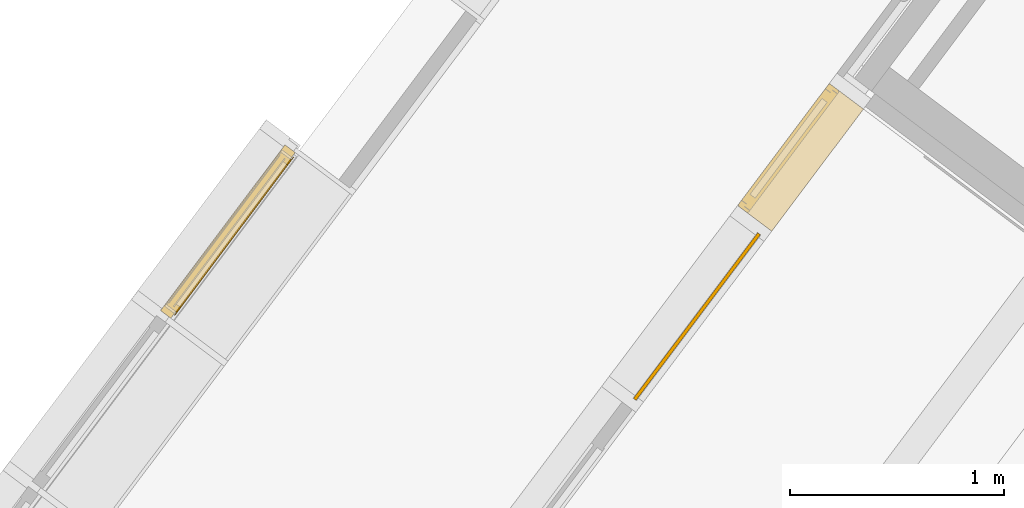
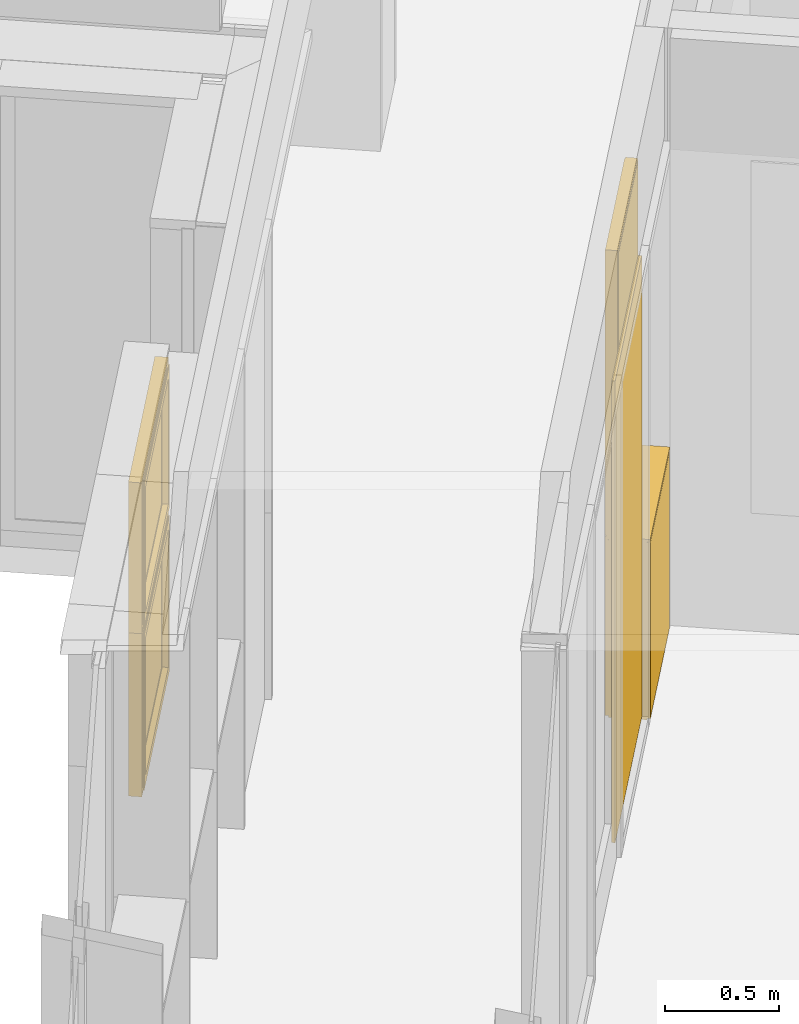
# One storey, part 195 of 243: 4 windows, 2 elements without a shape of their own.
"""IFC2X3 building model written with IfcOpenShell, lengths in metres."""

from ifc_helpers import new_model, entity, si_unit, converted_unit, derived_unit, direction, frame, origin, origin_2d_with_axis, place, context, subcontext, project, spatial, rectangle, extrude, faceted_brep, source, transform, mapped, material, material_list, type_object, type_shapes, element, aggregate, save


model = new_model("IFC2X3")

# Units and contexts
model_context = context("Model", 3, precision=1e-05, world=origin(), true_north=direction((6.123031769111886e-17, 1.0)))
body_context = subcontext(model_context, "Body", "Model", "MODEL_VIEW")
ifc_project = project(units=[si_unit("LENGTHUNIT", "METRE"), si_unit("AREAUNIT", "SQUARE_METRE"), si_unit("VOLUMEUNIT", "CUBIC_METRE"), converted_unit("PLANEANGLEUNIT", "DEGREE", entity("IfcRatioMeasure", 0.017453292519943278), si_unit("PLANEANGLEUNIT", "RADIAN"), dimensions=[0, 0, 0, 0, 0, 0, 0]), si_unit("MASSUNIT", "GRAM", prefix="KILO"), derived_unit("MASSDENSITYUNIT", [(si_unit("MASSUNIT", "GRAM", prefix="KILO"), 1), (si_unit("LENGTHUNIT", "METRE"), -3)]), derived_unit("IONCONCENTRATIONUNIT", [(si_unit("MASSUNIT", "GRAM", prefix="KILO"), 1), (si_unit("LENGTHUNIT", "METRE"), -3)]), derived_unit("MOMENTOFINERTIAUNIT", [(si_unit("LENGTHUNIT", "METRE"), 4)]), si_unit("TIMEUNIT", "SECOND"), si_unit("FREQUENCYUNIT", "HERTZ"), si_unit("THERMODYNAMICTEMPERATUREUNIT", "DEGREE_CELSIUS"), derived_unit("THERMALTRANSMITTANCEUNIT", [(si_unit("MASSUNIT", "GRAM", prefix="KILO"), 1), (si_unit("THERMODYNAMICTEMPERATUREUNIT", "KELVIN"), -1), (si_unit("TIMEUNIT", "SECOND"), -3)]), derived_unit("THERMALCONDUCTANCEUNIT", [(si_unit("MASSUNIT", "GRAM", prefix="KILO"), 1), (si_unit("THERMODYNAMICTEMPERATUREUNIT", "KELVIN"), -1), (si_unit("TIMEUNIT", "SECOND"), -3), (si_unit("LENGTHUNIT", "METRE"), 1)]), derived_unit("VOLUMETRICFLOWRATEUNIT", [(si_unit("LENGTHUNIT", "METRE"), 3), (si_unit("TIMEUNIT", "SECOND"), -1)]), derived_unit("MASSFLOWRATEUNIT", [(si_unit("MASSUNIT", "GRAM", prefix="KILO"), 1), (si_unit("TIMEUNIT", "SECOND"), -1)]), derived_unit("ROTATIONALFREQUENCYUNIT", [(si_unit("TIMEUNIT", "SECOND"), -1)]), si_unit("ELECTRICCURRENTUNIT", "AMPERE"), si_unit("ELECTRICVOLTAGEUNIT", "VOLT"), si_unit("POWERUNIT", "WATT"), si_unit("FORCEUNIT", "NEWTON", prefix="KILO"), si_unit("ILLUMINANCEUNIT", "LUX"), si_unit("LUMINOUSFLUXUNIT", "LUMEN"), si_unit("LUMINOUSINTENSITYUNIT", "CANDELA"), derived_unit("USERDEFINED", [(si_unit("MASSUNIT", "GRAM", prefix="KILO"), -1), (si_unit("LENGTHUNIT", "METRE"), -2), (si_unit("TIMEUNIT", "SECOND"), 3), (si_unit("LUMINOUSFLUXUNIT", "LUMEN"), 1)]), derived_unit("USERDEFINED", [(si_unit("MASSUNIT", "GRAM", prefix="KILO"), 1), (si_unit("TIMEUNIT", "SECOND"), -3), (si_unit("LENGTHUNIT", "METRE"), 3), (si_unit("ELECTRICCURRENTUNIT", "AMPERE"), -2)]), derived_unit("SOUNDPOWERUNIT", [(si_unit("MASSUNIT", "GRAM", prefix="KILO"), 1), (si_unit("TIMEUNIT", "SECOND"), -3), (si_unit("LENGTHUNIT", "METRE"), 2)]), derived_unit("SOUNDPRESSUREUNIT", [(si_unit("MASSUNIT", "GRAM", prefix="KILO"), 1), (si_unit("LENGTHUNIT", "METRE"), -1), (si_unit("TIMEUNIT", "SECOND"), -2)]), derived_unit("LINEARVELOCITYUNIT", [(si_unit("LENGTHUNIT", "METRE"), 1), (si_unit("TIMEUNIT", "SECOND"), -1)]), si_unit("PRESSUREUNIT", "PASCAL"), derived_unit("USERDEFINED", [(si_unit("MASSUNIT", "GRAM", prefix="KILO"), 1), (si_unit("LENGTHUNIT", "METRE"), -2), (si_unit("TIMEUNIT", "SECOND"), -2)]), derived_unit("LINEARFORCEUNIT", [(si_unit("MASSUNIT", "GRAM", prefix="KILO"), 1), (si_unit("TIMEUNIT", "SECOND"), -2)]), derived_unit("PLANARFORCEUNIT", [(si_unit("MASSUNIT", "GRAM", prefix="KILO"), 1), (si_unit("LENGTHUNIT", "METRE"), -1), (si_unit("TIMEUNIT", "SECOND"), -2)]), derived_unit("SPECIFICHEATCAPACITYUNIT", [(si_unit("THERMODYNAMICTEMPERATUREUNIT", "KELVIN"), -1), (si_unit("LENGTHUNIT", "METRE"), 2), (si_unit("TIMEUNIT", "SECOND"), -2)]), derived_unit("HEATINGVALUEUNIT", [(si_unit("LENGTHUNIT", "METRE"), 2), (si_unit("TIMEUNIT", "SECOND"), -2)]), derived_unit("VAPORPERMEABILITYUNIT", [(si_unit("LENGTHUNIT", "METRE"), -1), (si_unit("TIMEUNIT", "SECOND"), 1)]), derived_unit("DYNAMICVISCOSITYUNIT", [(si_unit("MASSUNIT", "GRAM", prefix="KILO"), 1), (si_unit("TIMEUNIT", "SECOND"), -1), (si_unit("LENGTHUNIT", "METRE"), -1)]), derived_unit("THERMALEXPANSIONCOEFFICIENTUNIT", [(si_unit("THERMODYNAMICTEMPERATUREUNIT", "KELVIN"), -1)]), derived_unit("MODULUSOFELASTICITYUNIT", [(si_unit("MASSUNIT", "GRAM", prefix="KILO"), 1), (si_unit("LENGTHUNIT", "METRE"), -1), (si_unit("TIMEUNIT", "SECOND"), -2)]), derived_unit("ISOTHERMALMOISTURECAPACITYUNIT", [(si_unit("LENGTHUNIT", "METRE"), 3), (si_unit("MASSUNIT", "GRAM", prefix="KILO"), -1)]), derived_unit("MOISTUREDIFFUSIVITYUNIT", [(si_unit("TIMEUNIT", "SECOND"), -1), (si_unit("LENGTHUNIT", "METRE"), 2)])], contexts=[model_context])

# Site, building, storey
site_placement = place(None, frame((0.0, 0.0, 235.0), z_axis=(0.0, 0.0, 1.0), x_axis=(-0.7996477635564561, 0.6004693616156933, 0.0)))
site = spatial("IfcSite", under=ifc_project, at=site_placement, Name="Default", CompositionType="ELEMENT")
building_placement = place(site_placement, origin())
building = spatial("IfcBuilding", under=site, at=building_placement, CompositionType="ELEMENT")
storey_placement = place(building_placement, origin())
storey = spatial("IfcBuildingStorey", under=building, at=storey_placement, Name="P0- Escola", CompositionType="ELEMENT", Elevation=0.0)

# Curtain wall, windows
curtain_wall_type_1 = type_object("IfcCurtainWallType", Name="Muro cortina:MC- INT- a1", PredefinedType="NOTDEFINED")
curtain_wall_1_placement = place(storey_placement, origin())
curtain_wall_1 = element("IfcCurtainWall", 1, at=curtain_wall_1_placement, inside=storey, type_object=curtain_wall_type_1, Name="Muro cortina:MC- INT- a1", ObjectType="Muro cortina:MC- INT- a1")
ifc_material_1 = material(Name="_Vidre")
window_style_1 = type_object("IfcWindowStyle", Name="MC- Fusta- vidre fix:MC- Fusta- vidre fix", ConstructionType="NOTDEFINED", OperationType="NOTDEFINED", ParameterTakesPrecedence=False, Sizeable=False, material=ifc_material_1)
shared_shape_1 = source(origin(), body_context, "Body", "SweptSolid", [
    extrude(rectangle(XDim=0.9699999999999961, YDim=0.015999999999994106, at=origin_2d_with_axis()), frame((0.0, 0.0, 0.0), z_axis=(0.0, 0.0, 1.0), x_axis=(-1.0, 0.0, 0.0)), (0.0, 0.0, 1.0), 2.475),
])
type_shapes(window_style_1, [shared_shape_1])
window_1_placement = place(curtain_wall_1_placement, frame((60.020147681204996, -34.91518997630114, 0.045000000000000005), z_axis=(0.0, 0.0, 1.0), x_axis=(0.0, -1.0, 0.0)))
window_1 = element("IfcWindow", 2, at=window_1_placement, type_object=window_style_1, material=ifc_material_1, Name="MC- Fusta- vidre fix:MC- Fusta- vidre fix", ObjectType="MC- Fusta- vidre fix:MC- Fusta- vidre fix", OverallHeight=2.475, OverallWidth=0.9699999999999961, context=body_context, shape_type="MappedRepresentation", body=[
    mapped(shared_shape_1, transform((0.0, 0.0, 0.0), scale=1.0)),
])
ifc_material_2 = material(Name="_Fusta massisa- T1-  REV- PAV")
ifc_material_3 = material(Name="_Aillament")
ifc_material_list_1 = material_list([ifc_material_2, ifc_material_3])
window_style_2 = type_object("IfcWindowStyle", Name="MC- Fusta- Finestra ventilacio interior- Enva- Sencer:MC- Fusta- Finestra ventilacio interior- Enva- Sencer", ConstructionType="NOTDEFINED", OperationType="NOTDEFINED", ParameterTakesPrecedence=False, Sizeable=False, material=ifc_material_list_1)
shared_shape_2 = source(origin(), body_context, "Body", "Brep", [
    faceted_brep([(-0.2805000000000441, 0.145000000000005, 2.428), (-0.28050000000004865, 0.14500000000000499, 1.0449999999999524), (0.28050000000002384, 0.1450000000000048, 1.0449999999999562), (0.2805000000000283, 0.14500000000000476, 2.428000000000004), (0.2805000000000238, 0.11500000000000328, 1.0449999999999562), (0.2805000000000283, 0.11500000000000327, 2.428000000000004), (-0.2805000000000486, 0.1150000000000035, 1.0449999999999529), (-0.2805000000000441, 0.11500000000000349, 2.428), (0.3255000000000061, 0.15999999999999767, 2.4730000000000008), (0.3255000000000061, 0.1300000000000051, 2.4730000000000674), (0.3255000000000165, 0.13000000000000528, 1.0), (0.3255000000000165, 0.16000000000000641, 1.0), (-0.32550000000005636, 0.13000000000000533, 1.0), (-0.32550000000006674, 0.12999999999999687, 2.4729999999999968), (-0.32550000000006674, 0.15999999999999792, 2.4729999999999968), (-0.32550000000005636, 0.16000000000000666, 1.0), (0.3405000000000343, 0.12999999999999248, 0.9850000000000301), (-0.3405000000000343, 0.12999999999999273, 0.9850000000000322), (-0.3405000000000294, 0.13000000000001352, 2.4880000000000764), (0.34050000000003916, 0.13000000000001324, 2.4880000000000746), (0.34050000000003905, 0.10000000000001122, 2.4880000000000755), (-0.34050000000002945, 0.1000000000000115, 2.4880000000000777), (-0.34050000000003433, 0.09999999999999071, 0.9850000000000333), (0.3405000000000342, 0.09999999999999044, 0.9850000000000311)], [[[0, 1, 2, 3]], [[3, 2, 4, 5]], [[5, 4, 6, 7]], [[1, 0, 7, 6]], [[8, 9, 10, 11]], [[12, 13, 14, 15]], [[13, 9, 8, 14]], [[8, 11, 15, 14]], [[0, 3, 5, 7]], [[2, 1, 6, 4]], [[11, 10, 12, 15]], [[9, 13, 12, 10], [16, 17, 18, 19]], [[20, 21, 22, 23]], [[20, 19, 18, 21]], [[16, 19, 20, 23]], [[18, 17, 22, 21]], [[16, 23, 22, 17]]], outer=[[True], [True], [True], [True], [True], [True], [True], [True], [True], [True], [True], [False, True], [True], [True], [True], [True], [True]]),
    faceted_brep([(0.3575000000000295, 0.10400000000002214, 2.5050000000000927), (0.35750000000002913, 0.1040000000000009, 0.9679999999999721), (0.3575000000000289, 0.15600000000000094, 0.9679999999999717), (0.3575000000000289, 0.1560000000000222, 2.5050000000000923), (0.3525000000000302, 0.15600000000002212, 2.500000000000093), (-0.35250000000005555, 0.15600000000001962, 2.500000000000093), (-0.35250000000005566, 0.1559999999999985, 0.9729999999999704), (0.3525000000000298, 0.15600000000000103, 0.9729999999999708), (-0.35750000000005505, 0.15600000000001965, 2.5050000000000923), (-0.3575000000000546, 0.15599999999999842, 0.9679999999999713), (-0.3575000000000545, 0.10399999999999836, 0.9679999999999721), (-0.3575000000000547, 0.1040000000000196, 2.5050000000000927), (-0.3525000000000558, 0.10400000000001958, 2.5000000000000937), (0.35250000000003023, 0.10400000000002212, 2.5000000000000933), (0.3525000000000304, 0.10400000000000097, 0.972999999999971), (-0.35250000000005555, 0.10399999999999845, 0.972999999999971), (0.35250000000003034, 0.1000000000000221, 2.5000000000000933), (0.3525000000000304, 0.100000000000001, 0.972999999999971), (-0.35250000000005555, 0.09999999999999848, 0.9729999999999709), (-0.3525000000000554, 0.1000000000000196, 2.5000000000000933), (-0.3425000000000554, 0.1000000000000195, 2.4900000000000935), (0.34250000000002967, 0.1000000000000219, 2.490000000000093), (0.34250000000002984, 0.10000000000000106, 0.9829999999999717), (-0.34250000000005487, 0.09999999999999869, 0.9829999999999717), (0.3425000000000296, 0.13000000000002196, 2.490000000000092), (0.3425000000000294, 0.13000000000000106, 0.9829999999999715), (-0.342500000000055, 0.12999999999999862, 0.9829999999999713), (-0.34250000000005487, 0.13000000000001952, 2.490000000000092), (-0.3275000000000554, 0.13000000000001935, 2.475000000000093), (0.32750000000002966, 0.13000000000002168, 2.4750000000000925), (0.32750000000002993, 0.13000000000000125, 0.9979999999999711), (-0.3275000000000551, 0.1299999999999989, 0.9979999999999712), (0.3275000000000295, 0.16000000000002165, 2.475000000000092), (0.3275000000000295, 0.16000000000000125, 0.9979999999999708), (-0.32750000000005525, 0.15999999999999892, 0.9979999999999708), (-0.32750000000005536, 0.16000000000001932, 2.4750000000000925), (-0.3525000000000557, 0.16000000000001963, 2.500000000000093), (0.3525000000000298, 0.16000000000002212, 2.5000000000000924), (0.35250000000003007, 0.16000000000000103, 0.9729999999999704), (-0.3525000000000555, 0.1599999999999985, 0.9729999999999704)], [[[0, 1, 2, 3]], [[4, 5, 6, 7], [8, 3, 2, 9]], [[1, 10, 9, 2]], [[0, 11, 10, 1], [12, 13, 14, 15]], [[16, 17, 14, 13]], [[17, 18, 15, 14]], [[16, 19, 18, 17], [20, 21, 22, 23]], [[24, 25, 22, 21]], [[25, 26, 23, 22]], [[24, 27, 26, 25], [28, 29, 30, 31]], [[32, 33, 30, 29]], [[33, 34, 31, 30]], [[32, 35, 34, 33], [36, 37, 38, 39]], [[4, 7, 38, 37]], [[7, 6, 39, 38]], [[10, 11, 8, 9]], [[18, 19, 12, 15]], [[26, 27, 20, 23]], [[34, 35, 28, 31]], [[6, 5, 36, 39]], [[11, 0, 3, 8]], [[19, 16, 13, 12]], [[27, 24, 21, 20]], [[35, 32, 29, 28]], [[5, 4, 37, 36]]], outer=[[True], [False, True], [True], [True, False], [True], [True], [True, False], [True], [True], [True, False], [True], [True], [False, True], [True], [True], [True], [True], [True], [True], [True], [True], [True], [True], [True], [True]]),
    faceted_brep([(-0.35250000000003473, 0.14500000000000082, 0.005000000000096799), (0.35250000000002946, 0.14500000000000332, 0.005000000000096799), (0.35250000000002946, 0.14500000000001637, 0.9480000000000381), (-0.35250000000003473, 0.14500000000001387, 0.9480000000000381), (-0.3525000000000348, 0.15999999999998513, 0.005000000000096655), (-0.3525000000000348, 0.15999999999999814, 0.9480000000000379), (0.3525000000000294, 0.16000000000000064, 0.9480000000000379), (0.3525000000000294, 0.15999999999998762, 0.005000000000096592)], [[[0, 1, 2, 3]], [[4, 5, 6, 7]], [[7, 1, 0, 4]], [[6, 2, 1, 7]], [[5, 3, 2, 6]], [[4, 0, 3, 5]]]),
    faceted_brep([(-0.3525000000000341, -0.039999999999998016, 0.005000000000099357), (0.35250000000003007, -0.03999999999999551, 0.005000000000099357), (0.35250000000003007, -0.03999999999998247, 0.9480000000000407), (-0.3525000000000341, -0.03999999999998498, 0.9480000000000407), (-0.3525000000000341, -0.025000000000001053, 0.005000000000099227), (-0.3525000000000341, -0.02499999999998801, 0.9480000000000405), (0.35250000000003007, -0.024999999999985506, 0.9480000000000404), (0.35250000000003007, -0.024999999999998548, 0.00500000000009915)], [[[0, 1, 2, 3]], [[4, 5, 6, 7]], [[7, 1, 0, 4]], [[6, 2, 1, 7]], [[5, 3, 2, 6]], [[4, 0, 3, 5]]]),
    faceted_brep([(-0.3575000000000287, -0.025000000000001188, 0.0), (0.35750000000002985, -0.024999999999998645, 0.0), (0.35750000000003, -0.024999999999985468, 0.9530000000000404), (-0.3575000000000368, -0.02499999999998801, 0.9530000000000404), (-0.3575000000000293, 0.14500000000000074, 0.0), (-0.3575000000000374, 0.14500000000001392, 0.9530000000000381), (0.3575000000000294, 0.14500000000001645, 0.9530000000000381), (0.35750000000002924, 0.1450000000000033, 0.0)], [[[0, 1, 2, 3]], [[4, 5, 6, 7]], [[7, 1, 0, 4]], [[6, 2, 1, 7]], [[5, 3, 2, 6]], [[4, 0, 3, 5]]]),
    faceted_brep([(-0.3575000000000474, 0.15999999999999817, 0.9530000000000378), (-0.3575000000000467, -0.04000000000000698, 0.9530000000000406), (-0.3575000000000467, -0.04000000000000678, 0.9680000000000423), (-0.3575000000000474, 0.15999999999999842, 0.9680000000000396), (0.35750000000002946, 0.16000000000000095, 0.9680000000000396), (0.3575000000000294, 0.16000000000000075, 0.9530000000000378), (0.3575000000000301, -0.04000000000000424, 0.9680000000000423), (0.3575000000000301, -0.04000000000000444, 0.9530000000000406)], [[[0, 1, 2, 3]], [[3, 4, 5, 0]], [[2, 6, 4, 3]], [[1, 7, 6, 2]], [[0, 5, 7, 1]], [[5, 4, 6, 7]]]),
])
type_shapes(window_style_2, [shared_shape_2])
window_2_placement = place(curtain_wall_1_placement, frame((60.020147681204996, -35.802689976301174, 0.0), z_axis=(0.0, 0.0, 1.0), x_axis=(0.0, -1.0, 0.0)))
window_2 = element("IfcWindow", 3, at=window_2_placement, type_object=window_style_2, material=ifc_material_list_1, Name="MC- Fusta- Finestra ventilacio interior- Enva- Sencer:MC- Fusta- Finestra ventilacio interior- Enva- Sencer", ObjectType="MC- Fusta- Finestra ventilacio interior- Enva- Sencer:MC- Fusta- Finestra ventilacio interior- Enva- Sencer", OverallHeight=2.5050000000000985, OverallWidth=0.715000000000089, context=body_context, shape_type="MappedRepresentation", body=[
    mapped(shared_shape_2, transform((0.0, 0.0, 0.0), scale=1.0)),
])
aggregate(curtain_wall_1, [window_1, window_2])

curtain_wall_type_2 = type_object("IfcCurtainWallType", Name="Muro cortina:MC- EXT- MC5", PredefinedType="NOTDEFINED")
curtain_wall_2_placement = place(storey_placement, origin())
curtain_wall_2 = element("IfcCurtainWall", 4, at=curtain_wall_2_placement, inside=storey, type_object=curtain_wall_type_2, Name="Muro cortina:MC- EXT- MC5", ObjectType="Muro cortina:MC- EXT- MC5")
ifc_material_4 = material(Name="_Alumini- T1- Perfil")
ifc_material_list_2 = material_list([ifc_material_1, ifc_material_4])
window_style_3 = type_object("IfcWindowStyle", Name="MC- Alu- Conjunt finestra basculant- 68x68 cm:MC- Alu- Conjunt finestra basculant- 68x68 cm", ConstructionType="NOTDEFINED", OperationType="NOTDEFINED", ParameterTakesPrecedence=False, Sizeable=False, material=ifc_material_list_2)
shared_shape_3 = source(origin(), body_context, "Body", "Brep", [
    faceted_brep([(-0.43291170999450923, -0.03559830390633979, 0.051999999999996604), (-0.43291170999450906, -0.011598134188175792, 0.051999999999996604), (0.43291170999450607, -0.011598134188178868, 0.051999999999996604), (0.43291170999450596, -0.03559830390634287, 0.051999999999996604), (-0.43291170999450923, -0.03559830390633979, 0.8228027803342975), (-0.4329117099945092, -0.011598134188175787, 0.8228027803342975), (0.43291170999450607, -0.011598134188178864, 0.8228027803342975), (0.43291170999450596, -0.03559830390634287, 0.8228027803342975)], [[[0, 1, 2, 3]], [[4, 5, 1, 0]], [[5, 6, 2, 1]], [[6, 7, 3, 2]], [[7, 4, 0, 3]], [[4, 7, 6, 5]]]),
    faceted_brep([(0.4172108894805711, -0.009998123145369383, 0.8071019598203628), (0.4172108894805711, -0.007998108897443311, 0.8071019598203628), (0.4172108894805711, -0.007998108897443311, 0.06789804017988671), (0.4172108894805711, -0.009998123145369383, 0.06789804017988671), (0.44610892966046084, -0.007998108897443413, 0.8360000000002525), (0.44610892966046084, -0.007998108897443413, 0.03899999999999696), (-0.44610892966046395, -0.007998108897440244, 0.03899999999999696), (-0.44610892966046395, -0.007998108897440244, 0.8360000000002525), (-0.4172108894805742, -0.007998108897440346, 0.8071019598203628), (-0.4172108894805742, -0.007998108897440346, 0.06789804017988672), (-0.4172108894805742, -0.009998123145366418, 0.06789804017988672), (-0.4172108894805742, -0.009998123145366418, 0.8071019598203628), (-0.4329117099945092, -0.00999812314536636, 0.8228027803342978), (-0.4329117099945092, -0.009998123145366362, 0.05219721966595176), (0.43291170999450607, -0.009998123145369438, 0.052197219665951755), (0.43291170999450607, -0.009998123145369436, 0.8228027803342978), (0.4329117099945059, -0.04079986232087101, 0.8228027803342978), (0.4329117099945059, -0.04079986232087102, 0.052197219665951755), (-0.4329117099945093, -0.04079986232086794, 0.05219721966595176), (-0.4329117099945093, -0.04079986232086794, 0.8228027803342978), (-0.41721088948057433, -0.040799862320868, 0.8071019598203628), (-0.41721088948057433, -0.040799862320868, 0.06789804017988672), (0.41721088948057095, -0.04079986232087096, 0.06789804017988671), (0.41721088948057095, -0.04079986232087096, 0.8071019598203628), (0.41721088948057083, -0.06800005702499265, 0.8071019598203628), (0.4172108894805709, -0.06800005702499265, 0.06789804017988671), (-0.4172108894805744, -0.0680000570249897, 0.06789804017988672), (-0.4172108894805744, -0.0680000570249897, 0.8071019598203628), (-0.4636128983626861, -0.06800005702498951, 0.8535039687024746), (-0.4636128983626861, -0.06800005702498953, 0.021496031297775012), (0.4636128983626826, -0.06800005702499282, 0.021496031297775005), (0.4636128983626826, -0.06800005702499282, 0.8535039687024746), (0.4636128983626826, -0.0645000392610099, 0.8535039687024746), (0.4636128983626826, -0.0645000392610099, 0.021496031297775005), (-0.4636128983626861, -0.06450003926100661, 0.021496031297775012), (-0.4636128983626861, -0.06450003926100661, 0.8535039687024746), (-0.44610892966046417, -0.06450003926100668, 0.8360000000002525), (-0.44610892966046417, -0.06450003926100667, 0.03899999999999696), (0.4461089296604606, -0.06450003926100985, 0.038999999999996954), (0.4461089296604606, -0.06450003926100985, 0.8360000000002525)], [[[0, 1, 2, 3]], [[4, 5, 6, 7], [8, 9, 2, 1]], [[3, 2, 9, 10]], [[0, 3, 10, 11], [12, 13, 14, 15]], [[16, 15, 14, 17]], [[17, 14, 13, 18]], [[16, 17, 18, 19], [20, 21, 22, 23]], [[24, 23, 22, 25]], [[25, 22, 21, 26]], [[24, 25, 26, 27], [28, 29, 30, 31]], [[32, 31, 30, 33]], [[33, 30, 29, 34]], [[32, 33, 34, 35], [36, 37, 38, 39]], [[4, 39, 38, 5]], [[5, 38, 37, 6]], [[10, 9, 8, 11]], [[18, 13, 12, 19]], [[26, 21, 20, 27]], [[34, 29, 28, 35]], [[6, 37, 36, 7]], [[11, 8, 1, 0]], [[19, 12, 15, 16]], [[27, 20, 23, 24]], [[35, 28, 31, 32]], [[7, 36, 39, 4]]], outer=[[True], [True, False], [True], [False, True], [True], [True], [True, False], [True], [True], [False, True], [True], [True], [True, False], [True], [True], [True], [True], [True], [True], [True], [True], [True], [True], [True], [True]]),
    faceted_brep([(-0.42219318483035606, 0.0, 0.8121931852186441), (-0.42219318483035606, -0.0040000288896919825, 0.8121931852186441), (-0.422193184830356, -0.0040000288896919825, 0.06280681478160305), (-0.42219318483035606, 0.0, 0.06280681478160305), (-0.4575998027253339, -0.0040000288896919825, 0.847599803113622), (-0.4575998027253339, -0.0040000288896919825, 0.027400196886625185), (0.4575998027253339, -0.0040000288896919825, 0.027400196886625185), (0.4575998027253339, -0.0040000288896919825, 0.847599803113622), (0.422193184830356, -0.0040000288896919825, 0.812193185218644), (0.42219318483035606, -0.0040000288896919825, 0.06280681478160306), (0.42219318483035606, 0.0, 0.06280681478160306), (0.42219318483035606, 0.0, 0.8121931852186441), (0.4849999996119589, 0.0, 0.8750000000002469), (0.48499999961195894, 0.0, 0.0), (-0.4849999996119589, 0.0, 0.0), (-0.48499999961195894, 0.0, 0.8750000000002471), (-0.48499999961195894, -0.05999999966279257, 0.8750000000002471), (-0.48499999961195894, -0.05999999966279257, 0.0), (0.48499999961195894, -0.05999999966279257, 0.0), (0.48499999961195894, -0.05999999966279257, 0.8750000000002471), (0.45759980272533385, -0.05999999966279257, 0.8475998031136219), (0.4575998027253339, -0.05999999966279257, 0.027400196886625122), (-0.45759980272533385, -0.05999999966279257, 0.027400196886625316), (-0.4575998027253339, -0.05999999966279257, 0.847599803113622)], [[[0, 1, 2, 3]], [[4, 5, 6, 7], [8, 9, 2, 1]], [[3, 2, 9, 10]], [[0, 3, 10, 11], [12, 13, 14, 15]], [[16, 15, 14, 17]], [[17, 14, 13, 18]], [[16, 17, 18, 19], [20, 21, 22, 23]], [[4, 23, 22, 5]], [[5, 22, 21, 6]], [[10, 9, 8, 11]], [[18, 13, 12, 19]], [[6, 21, 20, 7]], [[11, 8, 1, 0]], [[19, 12, 15, 16]], [[7, 20, 23, 4]]], outer=[[True], [True, False], [True], [False, True], [True], [True], [True, False], [True], [True], [True], [True], [True], [True], [True], [True]]),
])
type_shapes(window_style_3, [shared_shape_3])
window_3_placement = place(curtain_wall_2_placement, frame((62.04514768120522, -33.915191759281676, 0.8200000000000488), z_axis=(0.0, 0.0, 1.0), x_axis=(0.0, -1.0, 0.0)))
window_3 = element("IfcWindow", 5, at=window_3_placement, type_object=window_style_3, material=ifc_material_list_2, Name="MC- Alu- Conjunt finestra basculant- 68x68 cm:MC- Alu- Conjunt finestra basculant- 68x68 cm", ObjectType="MC- Alu- Conjunt finestra basculant- 68x68 cm:MC- Alu- Conjunt finestra basculant- 68x68 cm", OverallHeight=0.8750000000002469, OverallWidth=0.9699999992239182, context=body_context, shape_type="MappedRepresentation", body=[
    mapped(shared_shape_3, transform((0.0, 0.0, 0.0), scale=1.0)),
])
window_style_4 = type_object("IfcWindowStyle", Name="MC- Alu- Conjunt finestra basculant- 68x68 cm:MC- Alu- Conjunt finestra basculant- 68x68 cm", ConstructionType="NOTDEFINED", OperationType="NOTDEFINED", ParameterTakesPrecedence=False, Sizeable=False, material=ifc_material_list_2)
shared_shape_4 = source(origin(), body_context, "Body", "Brep", [
    faceted_brep([(-0.43291170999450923, -0.03559830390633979, 0.051999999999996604), (-0.43291170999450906, -0.011598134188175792, 0.051999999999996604), (0.43291170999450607, -0.011598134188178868, 0.051999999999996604), (0.43291170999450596, -0.03559830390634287, 0.051999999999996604), (-0.43291170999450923, -0.03559830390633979, 0.7565527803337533), (-0.4329117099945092, -0.011598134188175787, 0.7565527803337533), (0.43291170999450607, -0.011598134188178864, 0.7565527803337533), (0.43291170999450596, -0.03559830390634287, 0.7565527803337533)], [[[0, 1, 2, 3]], [[4, 5, 1, 0]], [[5, 6, 2, 1]], [[6, 7, 3, 2]], [[7, 4, 0, 3]], [[4, 7, 6, 5]]]),
    faceted_brep([(0.4172108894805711, -0.009998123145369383, 0.7408519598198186), (0.4172108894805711, -0.007998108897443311, 0.7408519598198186), (0.4172108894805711, -0.007998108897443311, 0.06789804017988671), (0.4172108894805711, -0.009998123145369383, 0.06789804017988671), (0.44610892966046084, -0.007998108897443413, 0.7697499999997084), (0.44610892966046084, -0.007998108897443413, 0.03899999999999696), (-0.44610892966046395, -0.007998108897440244, 0.03899999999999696), (-0.44610892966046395, -0.007998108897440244, 0.7697499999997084), (-0.4172108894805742, -0.007998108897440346, 0.7408519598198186), (-0.4172108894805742, -0.007998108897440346, 0.06789804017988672), (-0.4172108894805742, -0.009998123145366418, 0.06789804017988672), (-0.4172108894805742, -0.009998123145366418, 0.7408519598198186), (-0.4329117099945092, -0.00999812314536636, 0.7565527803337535), (-0.4329117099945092, -0.009998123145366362, 0.05219721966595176), (0.43291170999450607, -0.009998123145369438, 0.052197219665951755), (0.43291170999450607, -0.009998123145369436, 0.7565527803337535), (0.4329117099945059, -0.04079986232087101, 0.7565527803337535), (0.4329117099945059, -0.04079986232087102, 0.052197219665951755), (-0.4329117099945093, -0.04079986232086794, 0.05219721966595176), (-0.4329117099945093, -0.04079986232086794, 0.7565527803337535), (-0.41721088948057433, -0.040799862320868, 0.7408519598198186), (-0.41721088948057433, -0.040799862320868, 0.06789804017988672), (0.41721088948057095, -0.04079986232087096, 0.06789804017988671), (0.41721088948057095, -0.04079986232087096, 0.7408519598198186), (0.41721088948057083, -0.06800005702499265, 0.7408519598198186), (0.4172108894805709, -0.06800005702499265, 0.06789804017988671), (-0.4172108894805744, -0.0680000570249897, 0.06789804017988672), (-0.4172108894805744, -0.0680000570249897, 0.7408519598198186), (-0.4636128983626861, -0.06800005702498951, 0.7872539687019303), (-0.4636128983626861, -0.06800005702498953, 0.021496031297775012), (0.4636128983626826, -0.06800005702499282, 0.021496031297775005), (0.4636128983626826, -0.06800005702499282, 0.7872539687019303), (0.4636128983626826, -0.0645000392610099, 0.7872539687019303), (0.4636128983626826, -0.0645000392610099, 0.021496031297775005), (-0.4636128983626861, -0.06450003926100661, 0.021496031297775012), (-0.4636128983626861, -0.06450003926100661, 0.7872539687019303), (-0.44610892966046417, -0.06450003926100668, 0.7697499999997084), (-0.44610892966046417, -0.06450003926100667, 0.03899999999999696), (0.4461089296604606, -0.06450003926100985, 0.038999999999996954), (0.4461089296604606, -0.06450003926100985, 0.7697499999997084)], [[[0, 1, 2, 3]], [[4, 5, 6, 7], [8, 9, 2, 1]], [[3, 2, 9, 10]], [[0, 3, 10, 11], [12, 13, 14, 15]], [[16, 15, 14, 17]], [[17, 14, 13, 18]], [[16, 17, 18, 19], [20, 21, 22, 23]], [[24, 23, 22, 25]], [[25, 22, 21, 26]], [[24, 25, 26, 27], [28, 29, 30, 31]], [[32, 31, 30, 33]], [[33, 30, 29, 34]], [[32, 33, 34, 35], [36, 37, 38, 39]], [[4, 39, 38, 5]], [[5, 38, 37, 6]], [[10, 9, 8, 11]], [[18, 13, 12, 19]], [[26, 21, 20, 27]], [[34, 29, 28, 35]], [[6, 37, 36, 7]], [[11, 8, 1, 0]], [[19, 12, 15, 16]], [[27, 20, 23, 24]], [[35, 28, 31, 32]], [[7, 36, 39, 4]]], outer=[[True], [True, False], [True], [False, True], [True], [True], [True, False], [True], [True], [False, True], [True], [True], [True, False], [True], [True], [True], [True], [True], [True], [True], [True], [True], [True], [True], [True]]),
    faceted_brep([(-0.42219318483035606, 0.0, 0.7459431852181), (-0.42219318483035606, -0.0040000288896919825, 0.7459431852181), (-0.422193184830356, -0.0040000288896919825, 0.06280681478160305), (-0.42219318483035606, 0.0, 0.06280681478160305), (-0.4575998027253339, -0.0040000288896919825, 0.7813498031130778), (-0.4575998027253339, -0.0040000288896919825, 0.027400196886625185), (0.4575998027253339, -0.0040000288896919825, 0.027400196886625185), (0.4575998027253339, -0.0040000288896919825, 0.7813498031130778), (0.422193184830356, -0.0040000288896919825, 0.7459431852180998), (0.42219318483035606, -0.0040000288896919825, 0.06280681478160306), (0.42219318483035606, 0.0, 0.06280681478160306), (0.42219318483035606, 0.0, 0.7459431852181), (0.48499999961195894, 0.0, 0.8087499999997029), (0.48499999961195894, 0.0, 0.0), (-0.48499999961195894, 0.0, 0.0), (-0.48499999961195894, 0.0, 0.8087499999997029), (-0.48499999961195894, -0.05999999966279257, 0.8087499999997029), (-0.48499999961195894, -0.05999999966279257, 0.0), (0.48499999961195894, -0.05999999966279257, 0.0), (0.48499999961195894, -0.05999999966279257, 0.8087499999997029), (0.4575998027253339, -0.05999999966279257, 0.7813498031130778), (0.4575998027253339, -0.05999999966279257, 0.027400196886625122), (-0.4575998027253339, -0.05999999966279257, 0.02740019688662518), (-0.4575998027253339, -0.05999999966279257, 0.7813498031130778)], [[[0, 1, 2, 3]], [[4, 5, 6, 7], [8, 9, 2, 1]], [[3, 2, 9, 10]], [[0, 3, 10, 11], [12, 13, 14, 15]], [[16, 15, 14, 17]], [[17, 14, 13, 18]], [[16, 17, 18, 19], [20, 21, 22, 23]], [[4, 23, 22, 5]], [[5, 22, 21, 6]], [[10, 9, 8, 11]], [[18, 13, 12, 19]], [[6, 21, 20, 7]], [[11, 8, 1, 0]], [[19, 12, 15, 16]], [[7, 20, 23, 4]]], outer=[[True], [True, False], [True], [False, True], [True], [True], [True, False], [True], [True], [True], [True], [True], [True], [True], [True]]),
])
type_shapes(window_style_4, [shared_shape_4])
window_4_placement = place(curtain_wall_2_placement, frame((62.04514768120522, -33.915191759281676, 1.695000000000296), z_axis=(0.0, 0.0, 1.0), x_axis=(0.0, -1.0, 0.0)))
window_4 = element("IfcWindow", 6, at=window_4_placement, type_object=window_style_4, material=ifc_material_list_2, Name="MC- Alu- Conjunt finestra basculant- 68x68 cm:MC- Alu- Conjunt finestra basculant- 68x68 cm", ObjectType="MC- Alu- Conjunt finestra basculant- 68x68 cm:MC- Alu- Conjunt finestra basculant- 68x68 cm", OverallHeight=0.8087499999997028, OverallWidth=0.9699999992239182, context=body_context, shape_type="MappedRepresentation", body=[
    mapped(shared_shape_4, transform((0.0, 0.0, 0.0), scale=1.0)),
])
aggregate(curtain_wall_2, [window_3, window_4])

save(model, "model.ifc")
